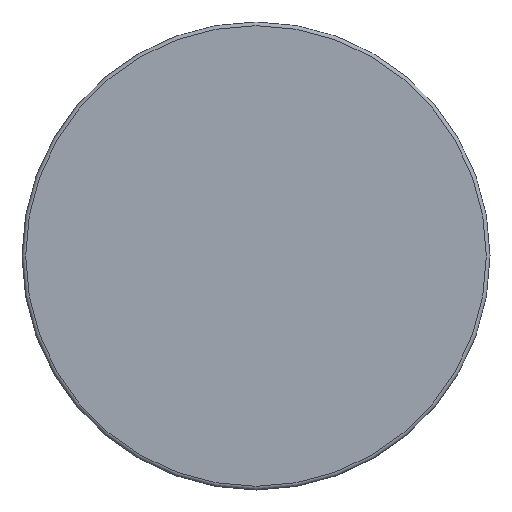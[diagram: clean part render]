
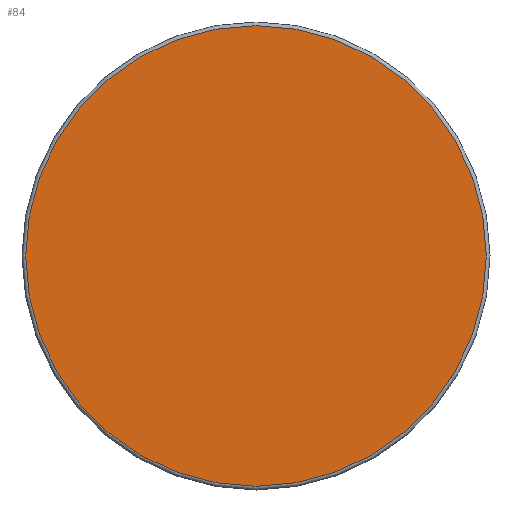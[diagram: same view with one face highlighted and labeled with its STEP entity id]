
A CAD part, front view. The second image highlights one B-rep face of the part: STEP entity #84.
In plain terms, the highlighted planar face has unit normal (0, -1, 0).
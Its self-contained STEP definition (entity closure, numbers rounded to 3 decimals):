
#68=CARTESIAN_POINT('',(-15.5,0.,0.0));
#69=DIRECTION('',(0.0,-1.0,0.0));
#70=DIRECTION('',(0.0,0.0,-1.0));
#71=AXIS2_PLACEMENT_3D('',#68,#69,#70);
#72=PLANE('',#71);
#73=CARTESIAN_POINT('',(-31.,0.,0.0));
#74=VERTEX_POINT('',#73);
#75=CARTESIAN_POINT('',(0.0,0.0,0.0));
#76=DIRECTION('',(0.0,1.0,0.0));
#77=DIRECTION('',(-1.0,0.0,0.0));
#78=AXIS2_PLACEMENT_3D('',#75,#76,#77);
#79=CIRCLE('',#78,31.);
#80=EDGE_CURVE('',#74,#74,#79,.T.);
#81=ORIENTED_EDGE('',*,*,#80,.F.);
#82=EDGE_LOOP('',(#81));
#83=FACE_OUTER_BOUND('',#82,.T.);
#84=ADVANCED_FACE('',(#83),#72,.T.);
